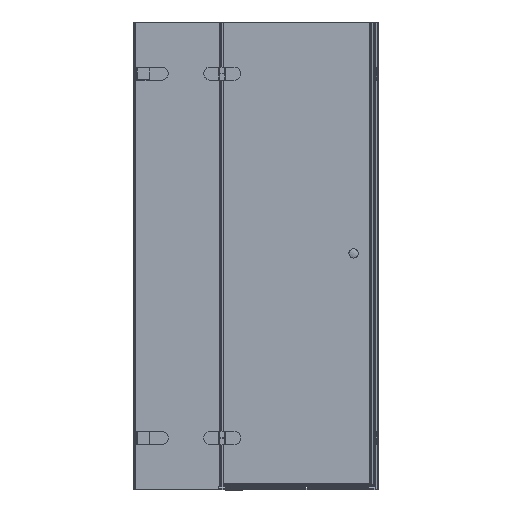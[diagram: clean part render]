
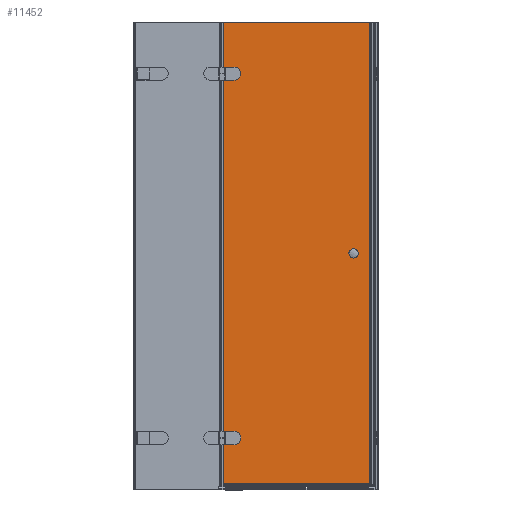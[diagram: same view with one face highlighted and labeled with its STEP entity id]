
A CAD part, front view. The second image highlights one B-rep face of the part: STEP entity #11452.
In plain terms, the highlighted planar face has unit normal (0, -1, 0).
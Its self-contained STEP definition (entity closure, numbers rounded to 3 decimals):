
#169=LINE($,#16269,#1383);
#172=LINE($,#16275,#1386);
#176=LINE($,#16285,#1390);
#219=LINE($,#16397,#1433);
#222=LINE($,#16403,#1436);
#226=LINE($,#16413,#1440);
#599=LINE($,#17591,#1813);
#619=LINE($,#17680,#1833);
#620=LINE($,#17682,#1834);
#621=LINE($,#17683,#1835);
#1383=VECTOR($,#13115,52.);
#1386=VECTOR($,#13120,23.);
#1390=VECTOR($,#13132,23.);
#1433=VECTOR($,#13239,52.);
#1436=VECTOR($,#13244,23.);
#1440=VECTOR($,#13256,23.);
#1813=VECTOR($,#14261,600.);
#1833=VECTOR($,#14327,1875.4);
#1834=VECTOR($,#14328,600.);
#1835=VECTOR($,#14329,1875.4);
#2547=FACE_BOUND($,#3671,.T.);
#2548=FACE_BOUND($,#3672,.T.);
#2549=FACE_BOUND($,#3673,.T.);
#3671=EDGE_LOOP($,(#8289,#8290,#8291,#8292));
#3672=EDGE_LOOP($,(#8293,#8294,#8295,#8296));
#3673=EDGE_LOOP($,(#8297,#8298,#8299,#8300));
#4080=CIRCLE($,#11919,26.);
#4092=CIRCLE($,#11956,26.);
#4473=VERTEX_POINT($,#16266);
#4474=VERTEX_POINT($,#16268);
#4476=VERTEX_POINT($,#16274);
#4478=VERTEX_POINT($,#16280);
#4514=VERTEX_POINT($,#16394);
#4515=VERTEX_POINT($,#16396);
#4517=VERTEX_POINT($,#16402);
#4519=VERTEX_POINT($,#16408);
#4880=VERTEX_POINT($,#17576);
#4882=VERTEX_POINT($,#17590);
#4904=VERTEX_POINT($,#17679);
#4905=VERTEX_POINT($,#17681);
#5497=EDGE_CURVE($,#4474,#4473,#169,.T.);
#5500=EDGE_CURVE($,#4476,#4474,#172,.T.);
#5503=EDGE_CURVE($,#4478,#4476,#4080,.T.);
#5506=EDGE_CURVE($,#4473,#4478,#176,.T.);
#5559=EDGE_CURVE($,#4515,#4514,#219,.T.);
#5562=EDGE_CURVE($,#4517,#4515,#222,.T.);
#5565=EDGE_CURVE($,#4519,#4517,#4092,.T.);
#5568=EDGE_CURVE($,#4514,#4519,#226,.T.);
#6085=EDGE_CURVE($,#4882,#4880,#599,.T.);
#6120=EDGE_CURVE($,#4880,#4904,#619,.T.);
#6121=EDGE_CURVE($,#4905,#4904,#620,.T.);
#6122=EDGE_CURVE($,#4882,#4905,#621,.T.);
#8289=ORIENTED_EDGE($,*,*,#5497,.T.);
#8290=ORIENTED_EDGE($,*,*,#5506,.T.);
#8291=ORIENTED_EDGE($,*,*,#5503,.T.);
#8292=ORIENTED_EDGE($,*,*,#5500,.T.);
#8293=ORIENTED_EDGE($,*,*,#5559,.T.);
#8294=ORIENTED_EDGE($,*,*,#5568,.T.);
#8295=ORIENTED_EDGE($,*,*,#5565,.T.);
#8296=ORIENTED_EDGE($,*,*,#5562,.T.);
#8297=ORIENTED_EDGE($,*,*,#6085,.T.);
#8298=ORIENTED_EDGE($,*,*,#6120,.T.);
#8299=ORIENTED_EDGE($,*,*,#6121,.F.);
#8300=ORIENTED_EDGE($,*,*,#6122,.F.);
#10244=PLANE($,#12296);
#11452=ADVANCED_FACE($,(#2547,#2548,#2549),#10244,.T.);
#11919=AXIS2_PLACEMENT_3D($,#16281,#13126,#13127);
#11956=AXIS2_PLACEMENT_3D($,#16409,#13250,#13251);
#12296=AXIS2_PLACEMENT_3D($,#17678,#14325,#14326);
#13115=DIRECTION($,(0.,0.,1.));
#13120=DIRECTION($,(-1.,0.,0.));
#13126=DIRECTION('center_axis',(0.,1.,0.));
#13127=DIRECTION('ref_axis',(0.,0.,
1.));
#13132=DIRECTION($,(1.,0.,0.));
#13239=DIRECTION($,(0.,0.,1.));
#13244=DIRECTION($,(-1.,0.,0.));
#13250=DIRECTION('center_axis',(0.,1.,0.));
#13251=DIRECTION('ref_axis',(0.,0.,
1.));
#13256=DIRECTION($,(1.,0.,0.));
#14261=DIRECTION($,(1.,0.,0.));
#14325=DIRECTION('center_axis',(0.,-1.,0.));
#14326=DIRECTION('ref_axis',(1.,0.,0.));
#14327=DIRECTION($,(0.,0.,1.));
#14328=DIRECTION($,(1.,0.,0.));
#14329=DIRECTION($,(0.,0.,1.));
#16266=CARTESIAN_POINT('',(790.59,5.956,1201.944));
#16268=CARTESIAN_POINT('',(790.59,5.956,1149.944));
#16269=CARTESIAN_POINT($,(790.59,5.956,327.944));
#16274=CARTESIAN_POINT('',(813.59,5.956,1149.944));
#16275=CARTESIAN_POINT($,(791.59,5.956,1149.944));
#16280=CARTESIAN_POINT('',(813.59,5.956,1201.944));
#16281=CARTESIAN_POINT('Origin',(813.59,5.956,1175.944));
#16285=CARTESIAN_POINT($,(780.09,5.956,1201.944));
#16394=CARTESIAN_POINT('',(790.59,5.956,-278.056));
#16396=CARTESIAN_POINT('',(790.59,5.956,-330.056));
#16397=CARTESIAN_POINT($,(790.59,5.956,-412.056));
#16402=CARTESIAN_POINT('',(813.59,5.956,-330.056));
#16403=CARTESIAN_POINT($,(791.59,5.956,-330.056));
#16408=CARTESIAN_POINT('',(813.59,5.956,-278.056));
#16409=CARTESIAN_POINT('Origin',(813.59,5.956,-304.056));
#16413=CARTESIAN_POINT($,(780.09,5.956,-278.056));
#17576=CARTESIAN_POINT('',(1369.59,5.956,-489.456));
#17590=CARTESIAN_POINT('',(769.59,5.956,-489.456));
#17591=CARTESIAN_POINT($,(769.59,5.956,-489.456));
#17678=CARTESIAN_POINT('Origin',(769.59,5.956,-494.056));
#17679=CARTESIAN_POINT('',(1369.59,5.956,1385.944));
#17680=CARTESIAN_POINT($,(1369.59,5.956,-494.056));
#17681=CARTESIAN_POINT('',(769.59,5.956,1385.944));
#17682=CARTESIAN_POINT($,(769.59,5.956,1385.944));
#17683=CARTESIAN_POINT($,(769.59,5.956,-494.056));
